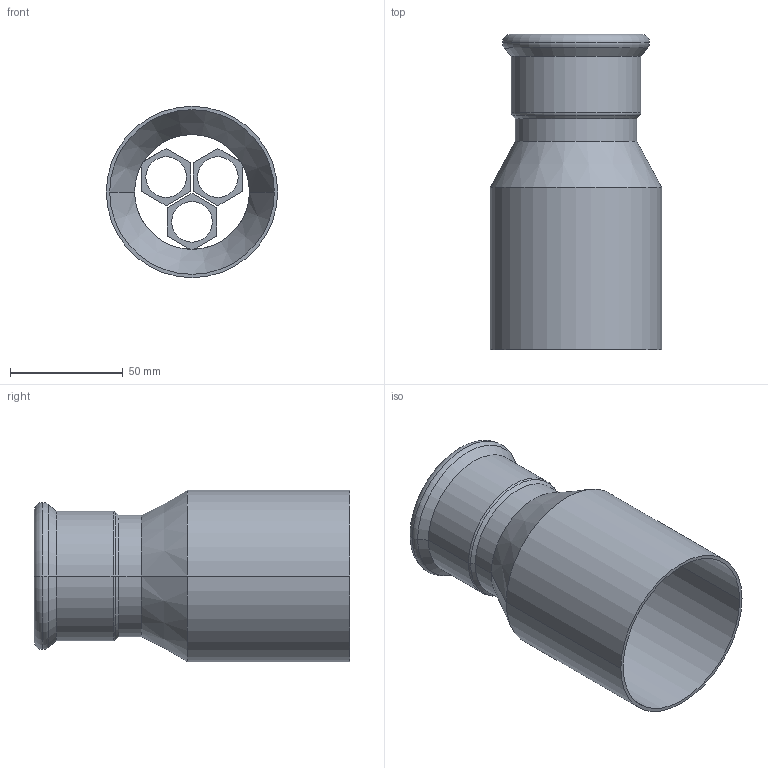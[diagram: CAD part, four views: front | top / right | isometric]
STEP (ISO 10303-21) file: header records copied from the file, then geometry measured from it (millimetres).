
FILE_DESCRIPTION(('OneSpaceDesigner STEP Export'),'2;1');
FILE_NAME('R2707 54x76.stp','2010-06-09T13:51:05',(''),(''),'OneSpace Designer STEP processor for AP214 (Solid Model)','OneSpace Modeling 15.00A 14-Mar-2007 (C) CoCreate Software GmbH','');
FILE_SCHEMA(('AUTOMOTIVE_DESIGN { 1 0 10303 214 1 1 1 1 }'));
Length unit declared in the file: millimetre
Products named in the file (2): R2707_54x76
Assembly tree (1 placements, depth 2):
  R2707_54x76
    R2707_54x76
Bounding box: 76.1 x 140 x 76.1 mm (x, y, z)
Volume: 49118.4 mm3; surface area: 63330.2 mm2
Topology: 1 solids, 1 shells, 68 faces, 164 edges, 103 vertices
Faces by surface type: plane 31, cylinder 23, cone 8, torus 6
Entity records: 1764 total; most frequent: ORIENTED_EDGE 328, CARTESIAN_POINT 281, DIRECTION 259, EDGE_CURVE 164, VERTEX_POINT 103, VECTOR 97, LINE 97, AXIS2_PLACEMENT_3D 81
